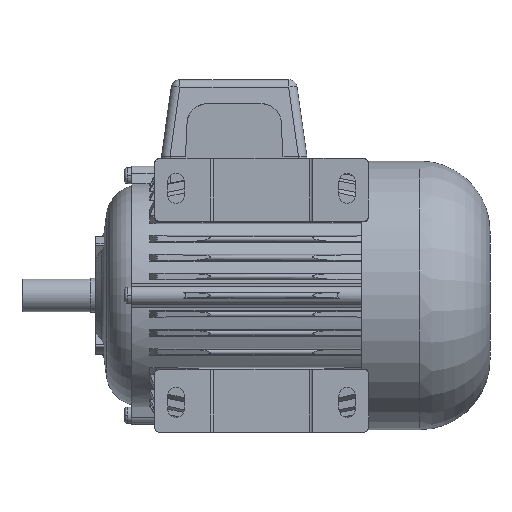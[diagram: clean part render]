
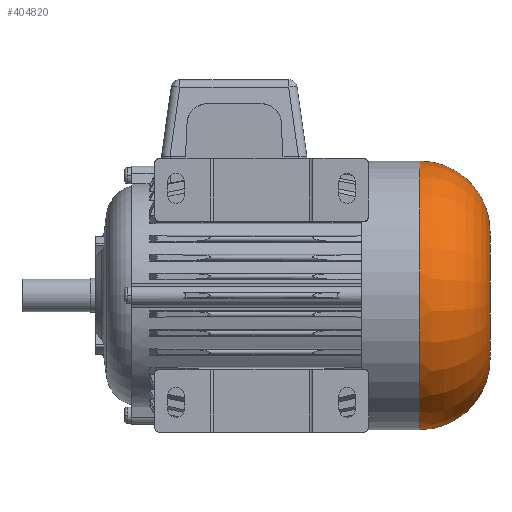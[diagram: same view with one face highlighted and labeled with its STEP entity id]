
A CAD part, front view. The second image highlights one B-rep face of the part: STEP entity #404820.
In plain terms, the highlighted toroidal (fillet/blend) face has major radius 37.5 mm and minor radius 41 mm.
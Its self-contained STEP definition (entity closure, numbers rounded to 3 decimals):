
#73700=CARTESIAN_POINT('',(1034.742,425.687,
-27.004));
#73710=VERTEX_POINT('',#73700);
#73790=CARTESIAN_POINT('',(1034.742,425.687,
129.996));
#73800=VERTEX_POINT('',#73790);
#73830=CARTESIAN_POINT('',(1034.742,425.687,
51.496));
#73840=DIRECTION('',(-1.,0.,0.));
#73850=DIRECTION('',(0.,0.,1.));
#73860=AXIS2_PLACEMENT_3D('',#73830,#73840,#73850);
#73870=CIRCLE('',#73860,78.5);
#74750=CARTESIAN_POINT('',(1075.742,425.687,
51.496));
#74760=DIRECTION('',(-1.,0.,0.));
#74770=DIRECTION('',(0.,0.,1.));
#74780=AXIS2_PLACEMENT_3D('',#74750,#74760,#74770);
#74790=CIRCLE('',#74780,37.5);
#74800=CARTESIAN_POINT('',(1075.742,425.687,
13.996));
#74810=VERTEX_POINT('',#74800);
#74820=CARTESIAN_POINT('',(1075.742,425.687,
88.996));
#74830=VERTEX_POINT('',#74820);
#74860=EDGE_CURVE('',#74830,#74810,#74790,.T.);
#87100=CARTESIAN_POINT('',(1034.742,425.687,
51.496));
#87110=DIRECTION('',(-1.,0.,0.));
#87120=DIRECTION('',(0.,0.,1.));
#87130=AXIS2_PLACEMENT_3D('',#87100,#87110,#87120);
#87140=DEGENERATE_TOROIDAL_SURFACE('',#87130,37.5,41.,.T.);
#87150=CARTESIAN_POINT('',(1034.742,425.687,
88.996));
#87160=DIRECTION('',(0.,1.,0.));
#87170=DIRECTION('',(-1.,0.,0.));
#87180=AXIS2_PLACEMENT_3D('',#87150,#87160,#87170);
#87190=CIRCLE('',#87180,41.);
#87200=EDGE_CURVE('',#73800,#74830,#87190,.T.);
#87230=CARTESIAN_POINT('',(1034.742,425.687,
13.996));
#87240=DIRECTION('',(0.,-1.,0.));
#87250=DIRECTION('',(-1.,0.,0.));
#87260=AXIS2_PLACEMENT_3D('',#87230,#87240,#87250);
#87270=CIRCLE('',#87260,41.);
#87280=EDGE_CURVE('',#73710,#74810,#87270,.T.);
#402940=EDGE_CURVE('',#73800,#73710,#73870,.T.);
#404760=ORIENTED_EDGE('',*,*,#87200,.T.);
#404770=ORIENTED_EDGE('',*,*,#402940,.F.);
#404780=ORIENTED_EDGE('',*,*,#87280,.F.);
#404790=ORIENTED_EDGE('',*,*,#74860,.T.);
#404800=EDGE_LOOP('',(#404790,#404780,#404770,#404760));
#404810=FACE_OUTER_BOUND('',#404800,.T.);
#404820=ADVANCED_FACE('',(#404810),#87140,.T.);
